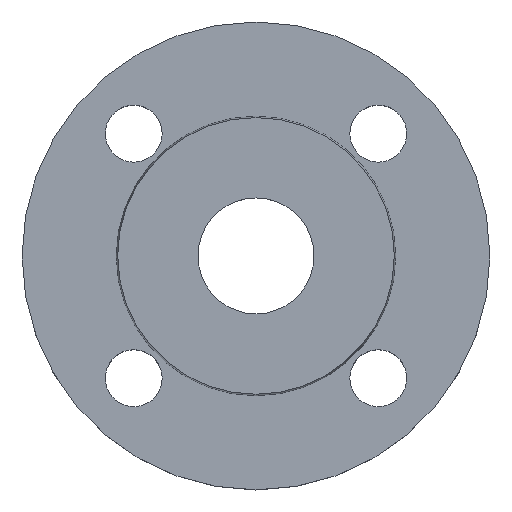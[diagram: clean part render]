
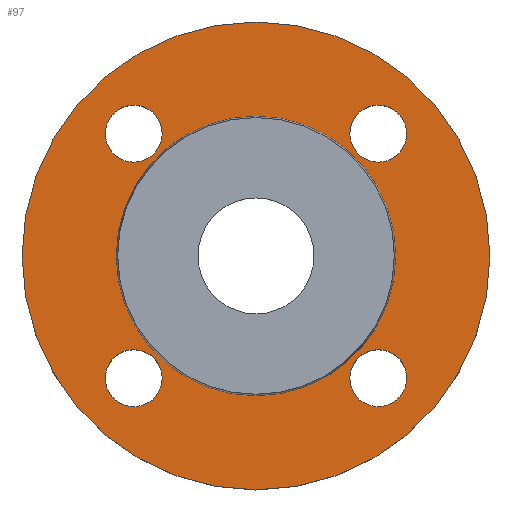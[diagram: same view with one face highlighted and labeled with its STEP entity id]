
A CAD part, top view. The second image highlights one B-rep face of the part: STEP entity #97.
In plain terms, the highlighted planar face has unit normal (0, 0, 1).
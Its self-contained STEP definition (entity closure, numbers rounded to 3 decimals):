
#15 = EDGE_CURVE ( 'NONE', #361, #254, #348, .T. ) ;
#16 = AXIS2_PLACEMENT_3D ( 'NONE', #48, #47, #52 ) ;
#27 = CARTESIAN_POINT ( 'NONE',  ( -23.052, -30.052, -2. ) ) ;
#39 = CARTESIAN_POINT ( 'NONE',  ( 23.052, 30.052, -2. ) ) ;
#47 = DIRECTION ( 'NONE',  ( 0., 0., -1. ) ) ;
#48 = CARTESIAN_POINT ( 'NONE',  ( -30.052, -30.052, -2. ) ) ;
#52 = DIRECTION ( 'NONE',  ( 1., 0., 0. ) ) ;
#54 = EDGE_CURVE ( 'NONE', #668, #347, #57, .T. ) ;
#57 = CIRCLE ( 'NONE', #128, 7. ) ;
#62 = AXIS2_PLACEMENT_3D ( 'NONE', #192, #278, #75 ) ;
#66 = CIRCLE ( 'NONE', #16, 7. ) ;
#69 = EDGE_CURVE ( 'NONE', #300, #570, #393, .T. ) ;
#73 = CIRCLE ( 'NONE', #107, 7. ) ;
#74 = EDGE_CURVE ( 'NONE', #650, #667, #105, .T. ) ;
#75 = DIRECTION ( 'NONE',  ( -1., 0., 0. ) ) ;
#86 = CARTESIAN_POINT ( 'NONE',  ( 34.353, 0., -2. ) ) ;
#87 = CARTESIAN_POINT ( 'NONE',  ( 23.052, -30.052, -2. ) ) ;
#89 = CIRCLE ( 'NONE', #283, 7. ) ;
#97 = ADVANCED_FACE ( 'NONE', ( #437, #438, #439, #441, #443, #444 ), #445, .T. ) ;
#100 = EDGE_CURVE ( 'NONE', #345, #315, #493, .T. ) ;
#105 = CIRCLE ( 'NONE', #131, 7. ) ;
#107 = AXIS2_PLACEMENT_3D ( 'NONE', #235, #229, #237 ) ;
#115 = CIRCLE ( 'NONE', #62, 34.353 ) ;
#121 = AXIS2_PLACEMENT_3D ( 'NONE', #400, #402, #403 ) ;
#128 = AXIS2_PLACEMENT_3D ( 'NONE', #409, #410, #411 ) ;
#131 = AXIS2_PLACEMENT_3D ( 'NONE', #416, #417, #418 ) ;
#151 = CIRCLE ( 'NONE', #293, 7. ) ;
#158 = EDGE_CURVE ( 'NONE', #382, #263, #184, .T. ) ;
#160 = AXIS2_PLACEMENT_3D ( 'NONE', #480, #481, #482 ) ;
#182 = CARTESIAN_POINT ( 'NONE',  ( 57.5, 0., -2. ) ) ;
#184 = CIRCLE ( 'NONE', #160, 7. ) ;
#192 = CARTESIAN_POINT ( 'NONE',  ( 0., 0., -2. ) ) ;
#204 = CIRCLE ( 'NONE', #251, 57.5 ) ;
#209 = CARTESIAN_POINT ( 'NONE',  ( -23.052, 30.052, -2. ) ) ;
#211 = EDGE_CURVE ( 'NONE', #254, #361, #204, .T. ) ;
#220 = AXIS2_PLACEMENT_3D ( 'NONE', #446, #447, #448 ) ;
#229 = DIRECTION ( 'NONE',  ( 0., 0., -1. ) ) ;
#235 = CARTESIAN_POINT ( 'NONE',  ( -30.052, 30.052, -2. ) ) ;
#237 = DIRECTION ( 'NONE',  ( 1., 0., 0. ) ) ;
#244 = CARTESIAN_POINT ( 'NONE',  ( 37.052, -30.052, -2. ) ) ;
#249 = EDGE_LOOP ( 'NONE', ( #264, #261 ) ) ;
#251 = AXIS2_PLACEMENT_3D ( 'NONE', #522, #523, #525 ) ;
#253 = ORIENTED_EDGE ( 'NONE', *, *, #211, .F. ) ;
#254 = VERTEX_POINT ( 'NONE', #559 ) ;
#257 = EDGE_LOOP ( 'NONE', ( #277, #276 ) ) ;
#258 = ORIENTED_EDGE ( 'NONE', *, *, #15, .F. ) ;
#261 = ORIENTED_EDGE ( 'NONE', *, *, #100, .T. ) ;
#263 = VERTEX_POINT ( 'NONE', #560 ) ;
#264 = ORIENTED_EDGE ( 'NONE', *, *, #401, .T. ) ;
#265 = ORIENTED_EDGE ( 'NONE', *, *, #158, .T. ) ;
#266 = ORIENTED_EDGE ( 'NONE', *, *, #280, .T. ) ;
#267 = ORIENTED_EDGE ( 'NONE', *, *, #412, .T. ) ;
#269 = ORIENTED_EDGE ( 'NONE', *, *, #74, .T. ) ;
#270 = ORIENTED_EDGE ( 'NONE', *, *, #69, .T. ) ;
#271 = CARTESIAN_POINT ( 'NONE',  ( -37.052, 30.052, -2. ) ) ;
#272 = ORIENTED_EDGE ( 'NONE', *, *, #386, .T. ) ;
#276 = ORIENTED_EDGE ( 'NONE', *, *, #288, .T. ) ;
#277 = ORIENTED_EDGE ( 'NONE', *, *, #54, .T. ) ;
#278 = DIRECTION ( 'NONE',  ( 0., 0., -1. ) ) ;
#280 = EDGE_CURVE ( 'NONE', #263, #382, #151, .T. ) ;
#283 = AXIS2_PLACEMENT_3D ( 'NONE', #567, #569, #573 ) ;
#288 = EDGE_CURVE ( 'NONE', #347, #668, #89, .T. ) ;
#293 = AXIS2_PLACEMENT_3D ( 'NONE', #564, #565, #566 ) ;
#300 = VERTEX_POINT ( 'NONE', #575 ) ;
#314 = AXIS2_PLACEMENT_3D ( 'NONE', #413, #414, #415 ) ;
#315 = VERTEX_POINT ( 'NONE', #586 ) ;
#331 = AXIS2_PLACEMENT_3D ( 'NONE', #449, #450, #451 ) ;
#337 = EDGE_LOOP ( 'NONE', ( #269, #267 ) ) ;
#345 = VERTEX_POINT ( 'NONE', #86 ) ;
#346 = EDGE_LOOP ( 'NONE', ( #258, #253 ) ) ;
#347 = VERTEX_POINT ( 'NONE', #87 ) ;
#348 = CIRCLE ( 'NONE', #121, 57.5 ) ;
#356 = EDGE_LOOP ( 'NONE', ( #272, #270 ) ) ;
#357 = EDGE_LOOP ( 'NONE', ( #266, #265 ) ) ;
#361 = VERTEX_POINT ( 'NONE', #182 ) ;
#382 = VERTEX_POINT ( 'NONE', #39 ) ;
#386 = EDGE_CURVE ( 'NONE', #570, #300, #66, .T. ) ;
#393 = CIRCLE ( 'NONE', #314, 7. ) ;
#400 = CARTESIAN_POINT ( 'NONE',  ( 0., 0., -2. ) ) ;
#401 = EDGE_CURVE ( 'NONE', #315, #345, #115, .T. ) ;
#402 = DIRECTION ( 'NONE',  ( 0., 0., -1. ) ) ;
#403 = DIRECTION ( 'NONE',  ( -1., 0., 0. ) ) ;
#409 = CARTESIAN_POINT ( 'NONE',  ( 30.052, -30.052, -2. ) ) ;
#410 = DIRECTION ( 'NONE',  ( 0., 0., -1. ) ) ;
#411 = DIRECTION ( 'NONE',  ( 1., 0., 0. ) ) ;
#412 = EDGE_CURVE ( 'NONE', #667, #650, #73, .T. ) ;
#413 = CARTESIAN_POINT ( 'NONE',  ( -30.052, -30.052, -2. ) ) ;
#414 = DIRECTION ( 'NONE',  ( 0., 0., -1. ) ) ;
#415 = DIRECTION ( 'NONE',  ( 1., 0., 0. ) ) ;
#416 = CARTESIAN_POINT ( 'NONE',  ( -30.052, 30.052, -2. ) ) ;
#417 = DIRECTION ( 'NONE',  ( 0., 0., -1. ) ) ;
#418 = DIRECTION ( 'NONE',  ( 1., 0., 0. ) ) ;
#437 = FACE_BOUND ( 'NONE', #257, .T. ) ;
#438 = FACE_BOUND ( 'NONE', #356, .T. ) ;
#439 = FACE_BOUND ( 'NONE', #337, .T. ) ;
#441 = FACE_BOUND ( 'NONE', #357, .T. ) ;
#443 = FACE_BOUND ( 'NONE', #249, .T. ) ;
#444 = FACE_OUTER_BOUND ( 'NONE', #346, .T. ) ;
#445 = PLANE ( 'NONE',  #220 ) ;
#446 = CARTESIAN_POINT ( 'NONE',  ( 34.353, 0., -2. ) ) ;
#447 = DIRECTION ( 'NONE',  ( 0., 0., 1. ) ) ;
#448 = DIRECTION ( 'NONE',  ( 1., 0., 0. ) ) ;
#449 = CARTESIAN_POINT ( 'NONE',  ( 0., 0., -2. ) ) ;
#450 = DIRECTION ( 'NONE',  ( 0., 0., -1. ) ) ;
#451 = DIRECTION ( 'NONE',  ( -1., 0., 0. ) ) ;
#480 = CARTESIAN_POINT ( 'NONE',  ( 30.052, 30.052, -2. ) ) ;
#481 = DIRECTION ( 'NONE',  ( 0., 0., -1. ) ) ;
#482 = DIRECTION ( 'NONE',  ( 1., 0., 0. ) ) ;
#493 = CIRCLE ( 'NONE', #331, 34.353 ) ;
#522 = CARTESIAN_POINT ( 'NONE',  ( 0., 0., -2. ) ) ;
#523 = DIRECTION ( 'NONE',  ( 0., 0., -1. ) ) ;
#525 = DIRECTION ( 'NONE',  ( -1., 0., 0. ) ) ;
#559 = CARTESIAN_POINT ( 'NONE',  ( -57.5, 0., -2. ) ) ;
#560 = CARTESIAN_POINT ( 'NONE',  ( 37.052, 30.052, -2. ) ) ;
#564 = CARTESIAN_POINT ( 'NONE',  ( 30.052, 30.052, -2. ) ) ;
#565 = DIRECTION ( 'NONE',  ( 0., 0., -1. ) ) ;
#566 = DIRECTION ( 'NONE',  ( 1., 0., 0. ) ) ;
#567 = CARTESIAN_POINT ( 'NONE',  ( 30.052, -30.052, -2. ) ) ;
#569 = DIRECTION ( 'NONE',  ( 0., 0., -1. ) ) ;
#570 = VERTEX_POINT ( 'NONE', #27 ) ;
#573 = DIRECTION ( 'NONE',  ( 1., 0., 0. ) ) ;
#575 = CARTESIAN_POINT ( 'NONE',  ( -37.052, -30.052, -2. ) ) ;
#586 = CARTESIAN_POINT ( 'NONE',  ( -34.353, 0., -2. ) ) ;
#650 = VERTEX_POINT ( 'NONE', #209 ) ;
#667 = VERTEX_POINT ( 'NONE', #271 ) ;
#668 = VERTEX_POINT ( 'NONE', #244 ) ;
